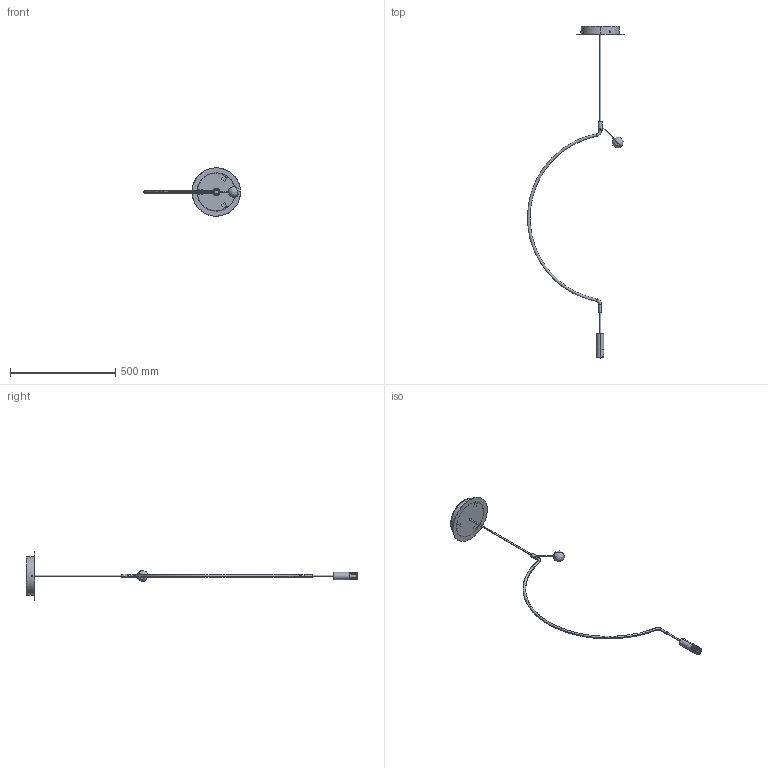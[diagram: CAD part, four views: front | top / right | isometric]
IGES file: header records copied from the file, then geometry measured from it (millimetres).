
Start section: SolidWorks IGES file using analytic representation for surfaces
Global section: file name: \\STORAGE\Tecnico Condiviso\1 FASCICOLI TECNICI\AXO DESIGN\AXO058-LIAISON\AXO01 Liaison - Fascicolo Tecnico 2018-11-20\AXO01.LS12 SO100 8 Luci\1.0A.AXO01.LS12.A1-3D\PSM Celada\SPLI8001XXXXLED-PER 3D.IGS; native system: SolidWorks 2019; preprocessor: SolidWorks 2019; author: tecnico3; date: 191123.115621; units: millimetre
Bounding box: 460.51 x 1578.45 x 230 mm (x, y, z)
Volume: 354387.1 mm3; surface area: 352832.8 mm2
Topology: 29 solids, 29 shells, 503 faces, 1161 edges, 714 vertices
Faces by surface type: bspline 503
